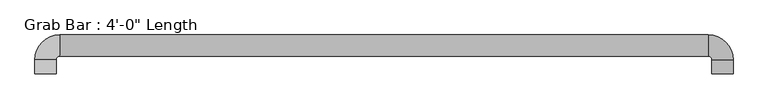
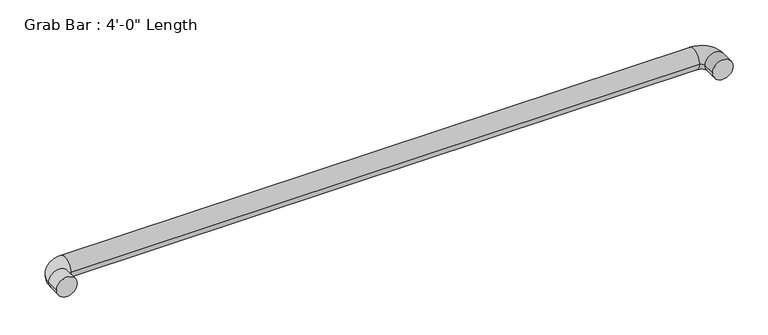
"""IFC4 building model written with IfcOpenShell, lengths in millimetres: proxy geometry."""

from ifc_helpers import new_model, si_unit, point, frame, origin, place, context, project, spatial, circle_curve, ellipse_curve, trimmed, source, transform, mapped, element, save
from ifc_brep_helpers import plane_surface, cylinder_surface, revolved_surface, advanced_brep


def proxy_cdde062f(model_context):
    return source(origin(), model_context, "Body", "AdvancedBrep", [
        advanced_brep(
        [(-590.55, 176.2125, 914.4), (-628.65, 176.2125, 914.4), (-590.55, 201.6125, 914.4), (-628.65, 201.6125, 914.4), (-584.2, 246.0625, 914.4), (-584.2, 207.9625, 914.4), (584.2, 207.9625, 914.4), (584.2, 246.0625, 914.4), (628.65, 201.6125, 914.4), (590.55, 201.6125, 914.4), (590.55, 176.2125, 914.4), (628.65, 176.2125, 914.4)],
        [
            (0, 1, circle_curve(frame((-609.6, 176.2125, 914.4), z_axis=(0.0, -1.0, 0.0), x_axis=(-1.0, 0.0, 0.0)), 19.05)),
            (1, 0, circle_curve(frame((-609.6, 176.2125, 914.4), z_axis=(0.0, -1.0, 0.0), x_axis=(-1.0, 0.0, 0.0)), 19.05)),
            (0, 2),
            (2, 3, circle_curve(frame((-609.6, 201.6125, 914.4), z_axis=(0.0, -1.0, 0.0), x_axis=(-1.0, 0.0, 0.0)), 19.05)),
            (3, 1),
            (3, 2, circle_curve(frame((-609.6, 201.6125, 914.4), z_axis=(0.0, -1.0, 0.0), x_axis=(-1.0, 0.0, 0.0)), 19.05)),
            (4, 3, circle_curve(frame((-584.2, 201.6125, 914.4), z_axis=(0.0, 0.0, 1.0), x_axis=(-1.0, 0.0, 0.0)), 44.45)),
            (2, 5, circle_curve(frame((-584.2, 201.6125, 914.4), z_axis=(0.0, 0.0, -1.0), x_axis=(-1.0, 0.0, 0.0)), 6.35)),
            (5, 4, circle_curve(frame((-584.2, 227.0125, 914.4), z_axis=(-1.0, 0.0, 0.0), x_axis=(0.0, 1.0, 0.0)), 19.05)),
            (4, 5, circle_curve(frame((-584.2, 227.0125, 914.4), z_axis=(-1.0, 0.0, 0.0), x_axis=(0.0, 1.0, 0.0)), 19.05)),
            (5, 6),
            (6, 7, circle_curve(frame((584.2, 227.0125, 914.4), z_axis=(-1.0, 0.0, 0.0), x_axis=(0.0, 1.0, 0.0)), 19.05)),
            (7, 4),
            (7, 6, circle_curve(frame((584.2, 227.0125, 914.4), z_axis=(-1.0, 0.0, 0.0), x_axis=(0.0, 1.0, 0.0)), 19.05)),
            (8, 7, circle_curve(frame((584.2, 201.6125, 914.4), z_axis=(0.0, 0.0, 1.0), x_axis=(0.0, 1.0, 0.0)), 44.45)),
            (6, 9, circle_curve(frame((584.2, 201.6125, 914.4), z_axis=(0.0, 0.0, -1.0), x_axis=(0.0, 1.0, 0.0)), 6.35)),
            (9, 8, circle_curve(frame((609.6, 201.6125, 914.4), z_axis=(0.0, 1.0, 0.0), x_axis=(1.0, 0.0, 0.0)), 19.05)),
            (8, 9, circle_curve(frame((609.6, 201.6125, 914.4), z_axis=(0.0, 1.0, 0.0), x_axis=(1.0, 0.0, 0.0)), 19.05)),
            (10, 11, circle_curve(frame((609.6, 176.2125, 914.4), z_axis=(0.0, -1.0, 0.0), x_axis=(1.0, 0.0, 0.0)), 19.05)),
            (11, 10, circle_curve(frame((609.6, 176.2125, 914.4), z_axis=(0.0, -1.0, 0.0), x_axis=(1.0, 0.0, 0.0)), 19.05)),
            (9, 10),
            (11, 8),
        ],
        [
            plane_surface(frame((-609.6, 176.2125, 914.4), z_axis=(0.0, -1.0, 0.0), x_axis=(0.0, 0.0, 1.0))),
            cylinder_surface(frame((-609.6, 176.2125, 914.4), z_axis=(0.0, -1.0, 0.0), x_axis=(-1.0, 0.0, 0.0)), 19.05),
            revolved_surface(trimmed(ellipse_curve(frame((-609.6, 201.6125, 914.4), z_axis=(0.0, -1.0, 0.0), x_axis=(-1.0, 0.0, 0.0)), 19.05, 19.05), [point((-590.55, 201.6125, 914.4))], [point((-628.65, 201.6125, 914.4))], True, "CARTESIAN"), (-584.2, 201.6125, 914.4), (0.0, 0.0, -1.0)),
            revolved_surface(trimmed(ellipse_curve(frame((-609.6, 201.6125, 914.4), z_axis=(0.0, -1.0, 0.0), x_axis=(-1.0, 0.0, 0.0)), 19.05, 19.05), [point((-628.65, 201.6125, 914.4))], [point((-590.55, 201.6125, 914.4))], True, "CARTESIAN"), (-584.2, 201.6125, 914.4), (0.0, 0.0, -1.0)),
            cylinder_surface(frame((-584.2, 227.0125, 914.4), z_axis=(-1.0, 0.0, 0.0), x_axis=(0.0, 1.0, 0.0)), 19.05),
            revolved_surface(trimmed(ellipse_curve(frame((584.2, 227.0125, 914.4), z_axis=(-1.0, 0.0, 0.0), x_axis=(0.0, 1.0, 0.0)), 19.05, 19.05), [point((584.2, 207.9625, 914.4))], [point((584.2, 246.0625, 914.4))], True, "CARTESIAN"), (584.2, 201.6125, 914.4), (0.0, 0.0, -1.0)),
            revolved_surface(trimmed(ellipse_curve(frame((584.2, 227.0125, 914.4), z_axis=(-1.0, 0.0, 0.0), x_axis=(0.0, 1.0, 0.0)), 19.05, 19.05), [point((584.2, 246.0625, 914.4))], [point((584.2, 207.9625, 914.4))], True, "CARTESIAN"), (584.2, 201.6125, 914.4), (0.0, 0.0, -1.0)),
            plane_surface(frame((609.6, 176.2125, 914.4), z_axis=(0.0, -1.0, 0.0), x_axis=(0.0, 0.0, 1.0))),
            cylinder_surface(frame((609.6, 201.6125, 914.4), z_axis=(0.0, 1.0, 0.0), x_axis=(1.0, 0.0, 0.0)), 19.05),
        ],
        [
            (0, [[1, 2]]),
            (1, [[-1, 3, 4, 5]]),
            (1, [[-2, -5, 6, -3]]),
            (2, [[7, -4, 8, 9]]),
            (3, [[-8, -6, -7, 10]]),
            (4, [[-9, 11, 12, 13]]),
            (4, [[-10, -13, 14, -11]]),
            (5, [[15, -12, 16, 17]]),
            (6, [[-16, -14, -15, 18]]),
            (7, [[19, 20]]),
            (8, [[-17, 21, -20, 22]]),
            (8, [[-18, -22, -19, -21]]),
        ],
    ),
    ])


if __name__ == "__main__":
    model = new_model("IFC4")
    model_context = context("Model", 3, world=origin())
    ifc_project = project(units=[si_unit("LENGTHUNIT", "METRE", prefix="MILLI")], contexts=[model_context])
    site = spatial("IfcSite", under=ifc_project)
    building = spatial("IfcBuilding", under=site)
    placement = place(None, origin())
    proxy_shape = proxy_cdde062f(model_context)
    element("IfcBuildingElementProxy", 1, Name="Grab Bar : 4'-0\" Length", ObjectType="Grab Bar : 4'-0\" Length", at=placement, inside=building, context=model_context, shape_type="MappedRepresentation", body=[
        mapped(proxy_shape, transform((0.0, 0.0, 0.0), x_axis=(1.0, 0.0, 0.0), y_axis=(0.0, 1.0, 0.0), z_axis=(0.0, 0.0, 1.0))),
    ])
    save(model, "model.ifc")
